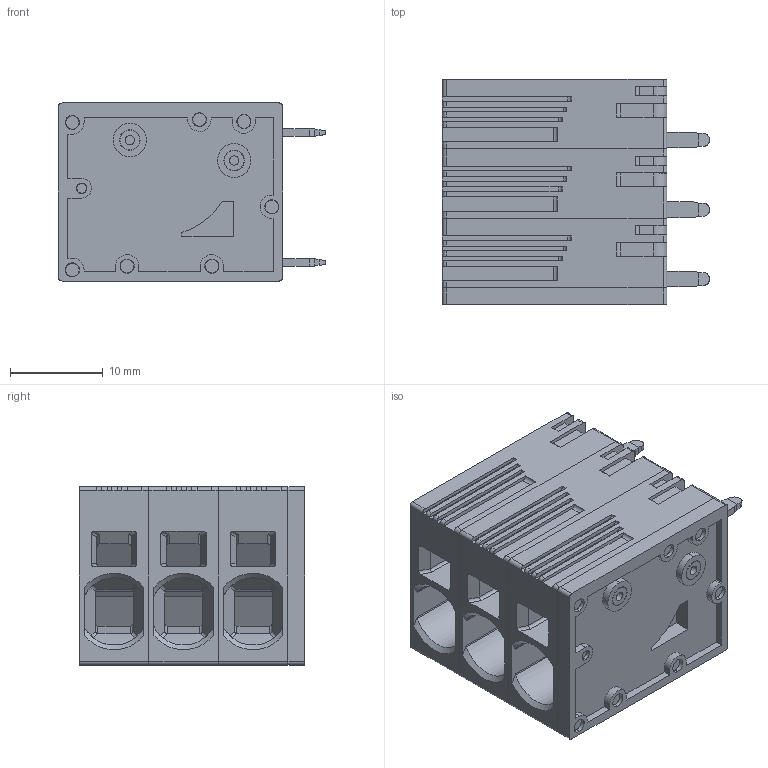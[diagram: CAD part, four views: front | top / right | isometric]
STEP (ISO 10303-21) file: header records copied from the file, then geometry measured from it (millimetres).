
FILE_DESCRIPTION((''),'2;1');
FILE_NAME('NK-03_ASM','2023-07-05T',('vicent.pan'),(''),'CREO PARAMETRIC BY PTC INC, 2016260','CREO PARAMETRIC BY PTC INC, 2016260','');
FILE_SCHEMA(('CONFIG_CONTROL_DESIGN'));
Length unit declared in the file: millimetre
Products named in the file (7): NK-COVER; SIDE-BODY; 5001; 2001; 2002; NK-BODY; NK-03_ASM
Assembly tree (10 placements, depth 2):
  NK-03_ASM
    NK-COVER
    SIDE-BODY  x2
    5001  x3
    2001  x2
    2002
    NK-BODY
Bounding box: 28.8 x 24.3 x 19.2 mm (x, y, z)
Volume: 5864.8 mm3; surface area: 14021.6 mm2
Topology: 10 solids, 10 shells, 2253 faces, 5723 edges, 3594 vertices
Faces by surface type: plane 1146, cylinder 701, cone 326, torus 80
Entity records: 45854 total; most frequent: CARTESIAN_POINT 8618, DIRECTION 7869, ORIENTED_EDGE 7664, EDGE_CURVE 3832, AXIS2_PLACEMENT_3D 2689, VECTOR 2491, LINE 2491, VERTEX_POINT 2407
